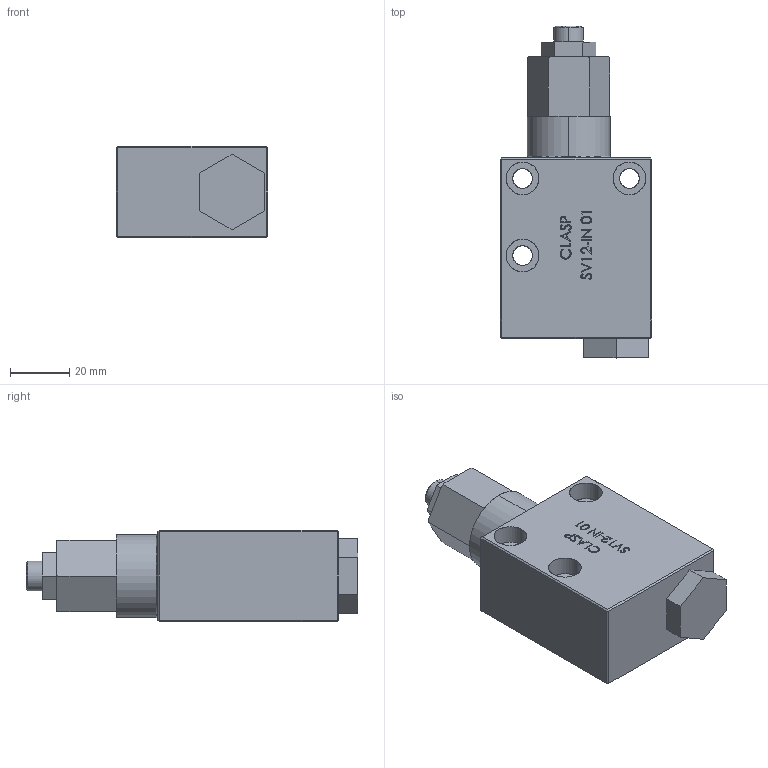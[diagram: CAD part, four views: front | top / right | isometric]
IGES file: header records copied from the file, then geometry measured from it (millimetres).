
Start section: SolidWorks IGES file using analytic representation for surfaces
Global section: file name: D:\karuppas\Clasp\sequence valve\SEQUENCE VALVE SV12-IN01.IGS; native system: SolidWorks 2017; preprocessor: SolidWorks 2017; author: pc; date: 210809.222751; units: millimetre
Bounding box: 51 x 111.9 x 30.8 mm (x, y, z)
Surface area: 19822.2 mm2 (no closed solid volume)
Topology: 0 solids, 0 shells, 297 faces, 3694 edges, 3694 vertices
Faces by surface type: bspline 263, revolution 34
